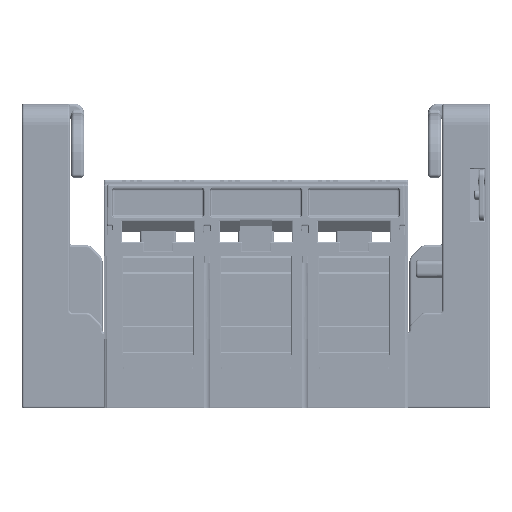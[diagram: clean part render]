
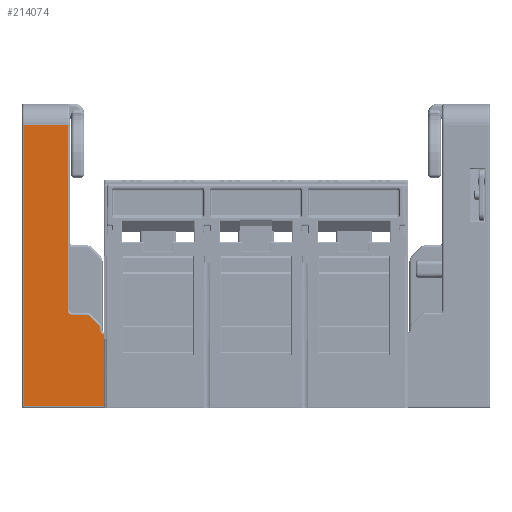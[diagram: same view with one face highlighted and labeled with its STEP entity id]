
A CAD part, front view. The second image highlights one B-rep face of the part: STEP entity #214074.
In plain terms, the highlighted planar face has unit normal (0, -1, 0).
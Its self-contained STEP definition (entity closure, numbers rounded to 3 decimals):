
#353 = DIRECTION ( 'NONE',  ( 0., 0., -1. ) ) ;
#358 = DIRECTION ( 'NONE',  ( 0., 1., 0. ) ) ;
#362 = CARTESIAN_POINT ( 'NONE',  ( -74.5, -85., 1.343 ) ) ;
#365 = AXIS2_PLACEMENT_3D ( 'NONE', #362, #358, #353 ) ;
#369 = CIRCLE ( 'NONE', #365, 3. ) ;
#373 = CARTESIAN_POINT ( 'NONE',  ( -72.379, -85., 3.464 ) ) ;
#582 = CARTESIAN_POINT ( 'NONE',  ( -76.036, -85., 7.121 ) ) ;
#598 = DIRECTION ( 'NONE',  ( 0.707, 0., -0.707 ) ) ;
#600 = VECTOR ( 'NONE', #598, 1000. ) ;
#602 = CARTESIAN_POINT ( 'NONE',  ( -72.379, -85., 3.464 ) ) ;
#604 = LINE ( 'NONE', #602, #600 ) ;
#783 = DIRECTION ( 'NONE',  ( 0., 0., -1. ) ) ;
#786 = VECTOR ( 'NONE', #783, 1000. ) ;
#788 = CARTESIAN_POINT ( 'NONE',  ( -86.5, -85., 10. ) ) ;
#791 = LINE ( 'NONE', #788, #786 ) ;
#806 = CARTESIAN_POINT ( 'NONE',  ( -86.5, -85., 10. ) ) ;
#968 = CARTESIAN_POINT ( 'NONE',  ( -106.5, -85., -34. ) ) ;
#978 = DIRECTION ( 'NONE',  ( 0., 0., 1. ) ) ;
#980 = VECTOR ( 'NONE', #978, 1000. ) ;
#984 = CARTESIAN_POINT ( 'NONE',  ( -106.5, -85., 95. ) ) ;
#989 = LINE ( 'NONE', #984, #980 ) ;
#1036 = DIRECTION ( 'NONE',  ( 0., 0., -1. ) ) ;
#1041 = DIRECTION ( 'NONE',  ( 0., 1., 0. ) ) ;
#1044 = CARTESIAN_POINT ( 'NONE',  ( -85.5, -85., 95. ) ) ;
#1048 = AXIS2_PLACEMENT_3D ( 'NONE', #1044, #1041, #1036 ) ;
#1054 = PLANE ( 'NONE',  #1048 ) ;
#1129 = FACE_OUTER_BOUND ( 'NONE', #214083, .T. ) ;
#1221 = CARTESIAN_POINT ( 'NONE',  ( -71.5, -85., 1.343 ) ) ;
#1227 = DIRECTION ( 'NONE',  ( 0., 0., -1. ) ) ;
#1228 = VECTOR ( 'NONE', #1227, 1000. ) ;
#1231 = CARTESIAN_POINT ( 'NONE',  ( -71.5, -85., 0.866 ) ) ;
#1234 = LINE ( 'NONE', #1231, #1228 ) ;
#1385 = CARTESIAN_POINT ( 'NONE',  ( -71.5, -85., 0.866 ) ) ;
#1448 = DIRECTION ( 'NONE',  ( 0., 0., -1. ) ) ;
#1450 = DIRECTION ( 'NONE',  ( 0., 1., 0. ) ) ;
#1454 = CARTESIAN_POINT ( 'NONE',  ( -78.157, -85., 5. ) ) ;
#1456 = AXIS2_PLACEMENT_3D ( 'NONE', #1454, #1450, #1448 ) ;
#1458 = CIRCLE ( 'NONE', #1456, 3. ) ;
#1569 = CARTESIAN_POINT ( 'NONE',  ( -84.5, -85., 8. ) ) ;
#1577 = DIRECTION ( 'NONE',  ( 1., 0., 0. ) ) ;
#1579 = VECTOR ( 'NONE', #1577, 1000. ) ;
#1581 = CARTESIAN_POINT ( 'NONE',  ( -78.157, -85., 8. ) ) ;
#1584 = LINE ( 'NONE', #1581, #1579 ) ;
#1614 = CARTESIAN_POINT ( 'NONE',  ( -78.157, -85., 8. ) ) ;
#1778 = DIRECTION ( 'NONE',  ( 0., 0., -1. ) ) ;
#1782 = DIRECTION ( 'NONE',  ( 0., -1., 0. ) ) ;
#1785 = CARTESIAN_POINT ( 'NONE',  ( -84.5, -85., 10. ) ) ;
#1787 = AXIS2_PLACEMENT_3D ( 'NONE', #1785, #1782, #1778 ) ;
#1790 = CIRCLE ( 'NONE', #1787, 2. ) ;
#1965 = DIRECTION ( 'NONE',  ( -1., 0., 0. ) ) ;
#1969 = VECTOR ( 'NONE', #1965, 1000. ) ;
#1972 = CARTESIAN_POINT ( 'NONE',  ( -85.5, -85., -34. ) ) ;
#1975 = LINE ( 'NONE', #1972, #1969 ) ;
#2053 = DIRECTION ( 'NONE',  ( 0., 0., -1. ) ) ;
#2055 = DIRECTION ( 'NONE',  ( 0., -1., 0. ) ) ;
#2056 = CARTESIAN_POINT ( 'NONE',  ( -69.5, -85., 0.866 ) ) ;
#2057 = AXIS2_PLACEMENT_3D ( 'NONE', #2056, #2055, #2053 ) ;
#2060 = CIRCLE ( 'NONE', #2057, 2. ) ;
#210042 = VERTEX_POINT ( 'NONE', #438382 ) ;
#210067 = EDGE_CURVE ( 'NONE', #210070, #210042, #438622, .T. ) ;
#210070 = VERTEX_POINT ( 'NONE', #438859 ) ;
#213690 = VERTEX_POINT ( 'NONE', #453174 ) ;
#213713 = EDGE_CURVE ( 'NONE', #213722, #213690, #453121, .T. ) ;
#213722 = VERTEX_POINT ( 'NONE', #453105 ) ;
#213865 = ORIENTED_EDGE ( 'NONE', *, *, #213867, .F. ) ;
#213867 = EDGE_CURVE ( 'NONE', #213879, #214111, #369, .T. ) ;
#213879 = VERTEX_POINT ( 'NONE', #373 ) ;
#213885 = ORIENTED_EDGE ( 'NONE', *, *, #213897, .F. ) ;
#213897 = EDGE_CURVE ( 'NONE', #213902, #213879, #604, .T. ) ;
#213902 = VERTEX_POINT ( 'NONE', #582 ) ;
#213992 = VERTEX_POINT ( 'NONE', #806 ) ;
#214001 = ORIENTED_EDGE ( 'NONE', *, *, #214014, .F. ) ;
#214014 = EDGE_CURVE ( 'NONE', #213722, #213992, #791, .T. ) ;
#214019 = ORIENTED_EDGE ( 'NONE', *, *, #213713, .T. ) ;
#214032 = ORIENTED_EDGE ( 'NONE', *, *, #214037, .F. ) ;
#214037 = EDGE_CURVE ( 'NONE', #214042, #213690, #989, .T. ) ;
#214042 = VERTEX_POINT ( 'NONE', #968 ) ;
#214074 = ADVANCED_FACE ( 'NONE', ( #1129 ), #1054, .F. ) ;
#214083 = EDGE_LOOP ( 'NONE', ( #214095, #213865, #213885, #214182, #214210, #214242, #214001, #214019, #214032, #214331, #214344, #214357 ) ) ;
#214095 = ORIENTED_EDGE ( 'NONE', *, *, #214102, .F. ) ;
#214102 = EDGE_CURVE ( 'NONE', #214111, #214116, #1234, .T. ) ;
#214111 = VERTEX_POINT ( 'NONE', #1221 ) ;
#214116 = VERTEX_POINT ( 'NONE', #1385 ) ;
#214182 = ORIENTED_EDGE ( 'NONE', *, *, #214190, .F. ) ;
#214190 = EDGE_CURVE ( 'NONE', #214199, #213902, #1458, .T. ) ;
#214199 = VERTEX_POINT ( 'NONE', #1614 ) ;
#214210 = ORIENTED_EDGE ( 'NONE', *, *, #214219, .F. ) ;
#214219 = EDGE_CURVE ( 'NONE', #214226, #214199, #1584, .T. ) ;
#214226 = VERTEX_POINT ( 'NONE', #1569 ) ;
#214242 = ORIENTED_EDGE ( 'NONE', *, *, #214249, .F. ) ;
#214249 = EDGE_CURVE ( 'NONE', #213992, #214226, #1790, .T. ) ;
#214331 = ORIENTED_EDGE ( 'NONE', *, *, #214334, .F. ) ;
#214334 = EDGE_CURVE ( 'NONE', #210070, #214042, #1975, .T. ) ;
#214344 = ORIENTED_EDGE ( 'NONE', *, *, #210067, .T. ) ;
#214357 = ORIENTED_EDGE ( 'NONE', *, *, #214366, .F. ) ;
#214366 = EDGE_CURVE ( 'NONE', #214116, #210042, #2060, .T. ) ;
#438382 = CARTESIAN_POINT ( 'NONE',  ( -70., -85., -1.07 ) ) ;
#438618 = VECTOR ( 'NONE', #438862, 1000. ) ;
#438620 = CARTESIAN_POINT ( 'NONE',  ( -70., -85., -35. ) ) ;
#438622 = LINE ( 'NONE', #438620, #438618 ) ;
#438859 = CARTESIAN_POINT ( 'NONE',  ( -70., -85., -34. ) ) ;
#438862 = DIRECTION ( 'NONE',  ( 0., 0., 1. ) ) ;
#453105 = CARTESIAN_POINT ( 'NONE',  ( -86.5, -85., 95. ) ) ;
#453113 = DIRECTION ( 'NONE',  ( -1., 0., 0. ) ) ;
#453115 = VECTOR ( 'NONE', #453113, 1000. ) ;
#453118 = CARTESIAN_POINT ( 'NONE',  ( -85.5, -85., 95. ) ) ;
#453121 = LINE ( 'NONE', #453118, #453115 ) ;
#453174 = CARTESIAN_POINT ( 'NONE',  ( -106.5, -85., 95. ) ) ;
